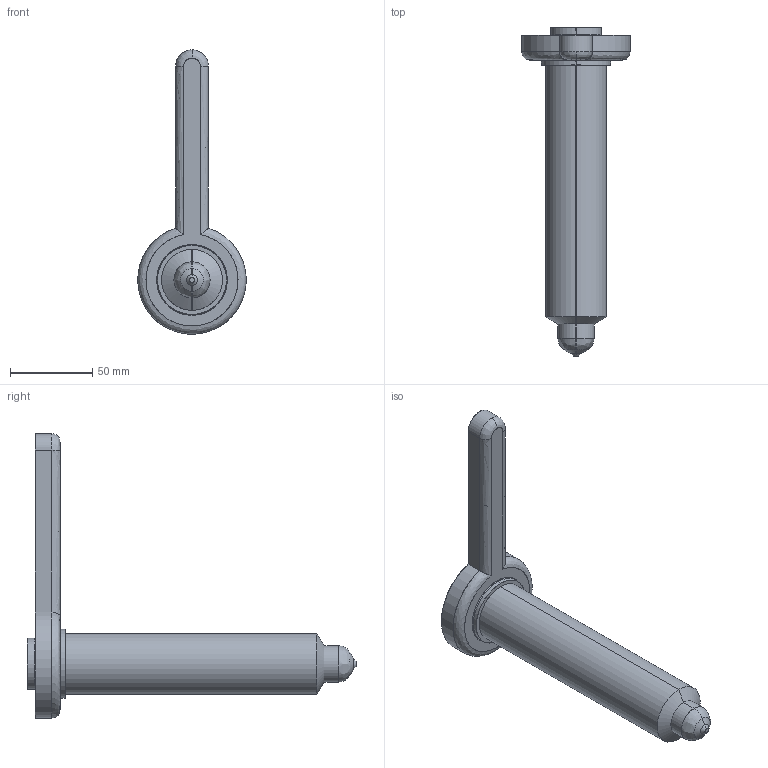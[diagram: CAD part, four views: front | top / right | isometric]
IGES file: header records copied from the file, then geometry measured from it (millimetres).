
Start section: SolidWorks IGES file using analytic representation for surfaces
Global section: file name: C:\Users\luca.EMPAD\Desktop\TEM\Sede UGDL3615-S-A C-177 L-195 Ød-3.0.IGS; native system: SolidWorks 2012; preprocessor: SolidWorks 2012; author: luca; date: 120330.161939; units: millimetre
Bounding box: 65.98 x 200.5 x 173 mm (x, y, z)
Surface area: 36048 mm2 (no closed solid volume)
Topology: 0 solids, 0 shells, 37 faces, 674 edges, 674 vertices
Faces by surface type: revolution 25, bspline 12
